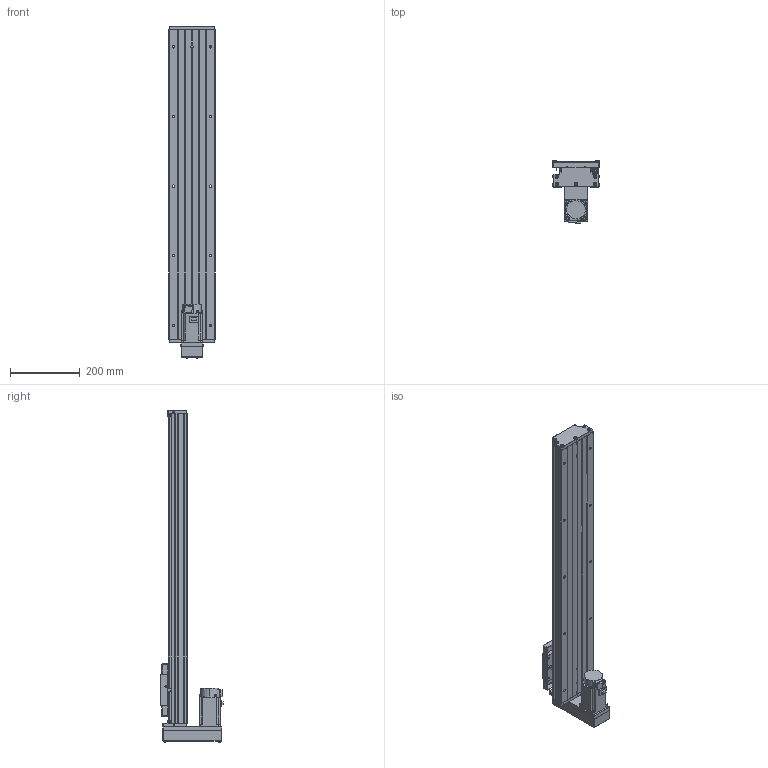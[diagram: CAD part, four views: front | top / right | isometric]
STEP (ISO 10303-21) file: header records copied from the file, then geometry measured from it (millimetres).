
FILE_DESCRIPTION (( 'STEP AP203' ), '1' );
FILE_NAME ('CTH130-700-BM-M40-C4.step', '2023-06-30T02:45:56', ( '微软用户' ), ( '微软中国' ), 'SwSTEP 2.0', 'SolidWorks 2020', '' );
FILE_SCHEMA (( 'CONFIG_CONTROL_DESIGN' ));
Length unit declared in the file: millimetre
Products named in the file (20): GB1155-6X6; CTH130-031; CTH130-700-BM-M40-C4; GBT70.1 M5℅16; GBT 70.2-M3¡Á5_M3¡Á6; GTH14-001_700; CTHA60-017; す晦芛蹟隊 M3℅5; CTH130-002_GTH14-002; EE_SX911P_R; HG-KN43J-S100; GB T308.1-2013-6.35; CTHA60-016; GBT 70.2-M4¡Á35_M4¡Á35; GTH14-004; GBT 70.1-M3℅5; GTH14-015-2_CTHA86-015-2; GTH14-005; GBT77-2000 M3×3; GTH14-033
Assembly tree (60 placements, depth 2):
  CTH130-700-BM-M40-C4
    GTH14-001_700
    CTH130-002_GTH14-002
    GB T308.1-2013-6.35  x2
    GTH14-004
    GTH14-005
    GB1155-6X6  x2
    GBT70.1 M5℅16  x10
    CTHA60-017  x3
    EE_SX911P_R  x3
    CTHA60-016  x2
    GBT 70.1-M3℅5  x6
    GBT77-2000 M3×3  x6
    CTH130-031
    GBT 70.2-M3¡Á5_M3¡Á6  x8
    す晦芛蹟隊 M3℅5  x6
    HG-KN43J-S100
    GBT 70.2-M4¡Á35_M4¡Á35  x4
    GTH14-015-2_CTHA86-015-2
    GTH14-033
Bounding box: 135 x 179.8 x 954.2 mm (x, y, z)
Volume: 5110283.6 mm3; surface area: 857539.2 mm2
Topology: 63 solids, 63 shells, 2435 faces, 5797 edges, 3585 vertices
Faces by surface type: plane 1310, cylinder 646, cone 299, torus 124, sphere 36, bspline 20
Entity records: 43924 total; most frequent: CARTESIAN_POINT 9847, DIRECTION 6402, ORIENTED_EDGE 6300, EDGE_CURVE 3150, AXIS2_PLACEMENT_3D 2184, LINE 2034, VECTOR 2034, VERTEX_POINT 1995
